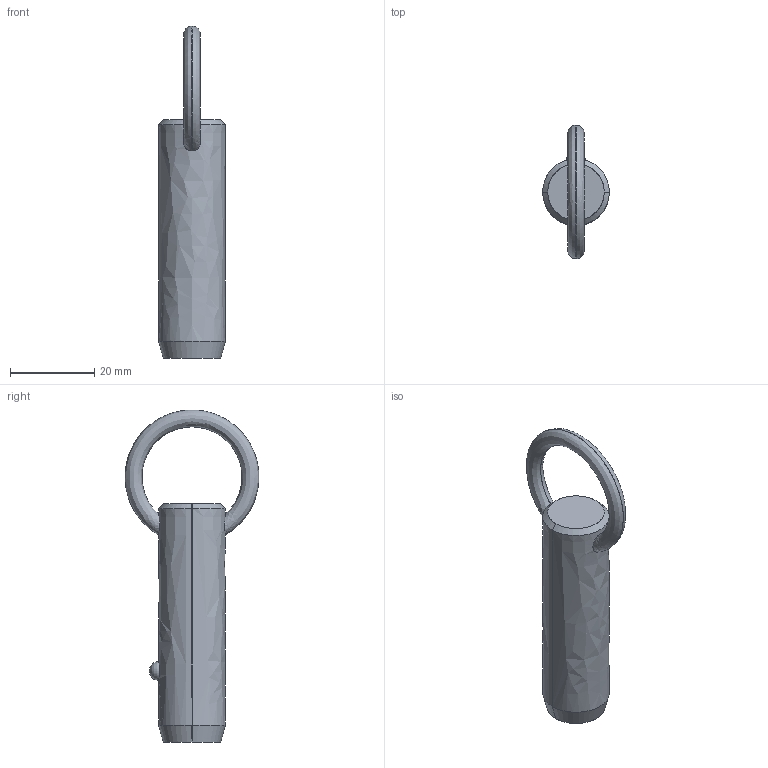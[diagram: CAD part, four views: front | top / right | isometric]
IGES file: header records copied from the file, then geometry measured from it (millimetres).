
Start section: SolidWorks IGES file using analytic representation for surfaces
Global section: file name: C:\Users\liam_\OneDrive\Documents\WORK\Work for WixRoyd\Job Files\J-00019 - Matt Davis CAD Checking\04. CAD Drawings\automotion20190605\P1250.2_v2\P1250.2_v2_20190729_IGES\P1250.062-110.igs; native system: SolidWorks 2017; preprocessor: SolidWorks 2017; author: liam_; date: 190729.232953; units: millimetre
Bounding box: 15.8 x 31.7 x 78.59 mm (x, y, z)
Surface area: 3973.4 mm2 (no closed solid volume)
Topology: 0 solids, 0 shells, 12 faces, 292 edges, 290 vertices
Faces by surface type: revolution 8, bspline 4
